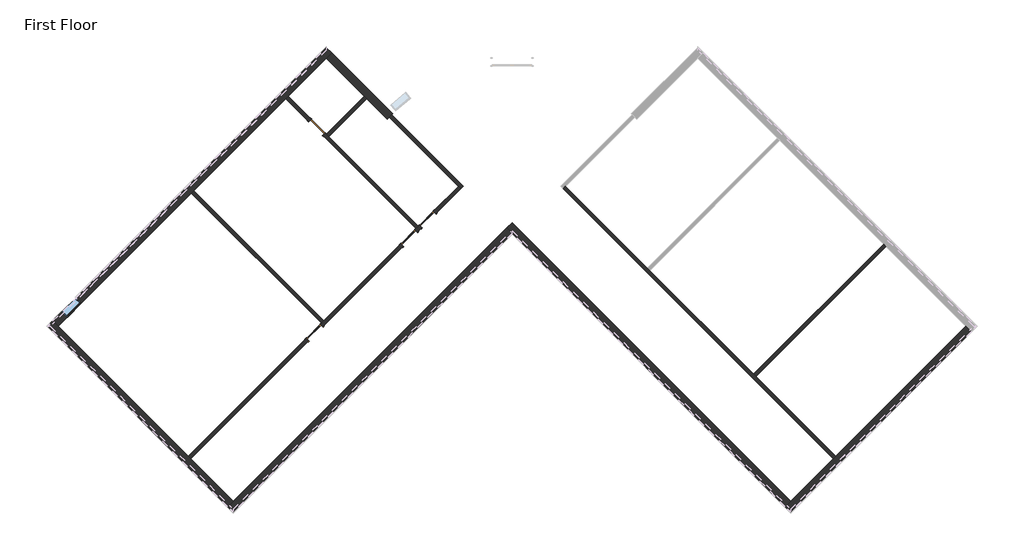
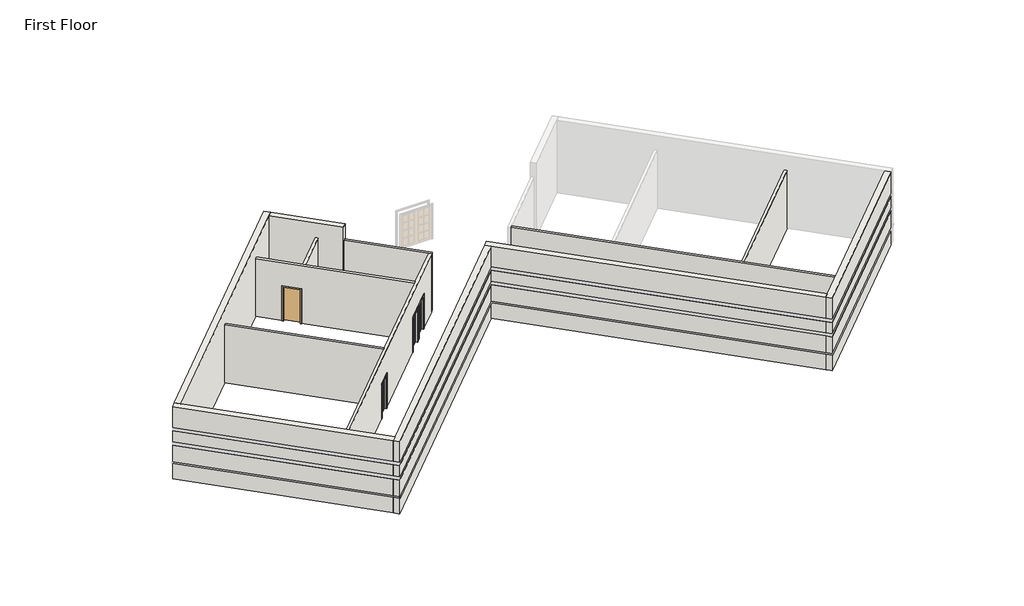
# One storey, part 1 of 2: 13 walls, 4 doors, 1 window.
"""IFC4 building model written with IfcOpenShell, lengths in millimetres."""

from ifc_helpers import new_model, si_unit, frame, origin, origin_with_axes, place, context, project, spatial, polyline, circle_curve, outline, extrude, faceted_brep, transform, mapped, element, save
from ifc_brep_helpers import plane_surface, cylinder_surface, revolved_surface, advanced_brep
from components import door_f9494b7c, door_b81abb0e, door_5f5b55da, window_15c49d37

model = new_model("IFC4")

# Units and contexts
model_context = context("Model", 3, world=origin())
ifc_project = project(units=[si_unit("LENGTHUNIT", "METRE", prefix="MILLI")], contexts=[model_context])

# Site, building, storey
site = spatial("IfcSite", under=ifc_project)
building = spatial("IfcBuilding", under=site)
storey = spatial("IfcBuildingStorey", under=building, Name="First Floor", Elevation=0.0)

# Doors
placement = place(None, origin())
door_shape = door_f9494b7c(model_context)
element("IfcDoor", 1, ObjectType="Single-Flush : 36\" x 84\"", at=placement, inside=storey, context=model_context, shape_type="MappedRepresentation", body=[
    mapped(door_shape, transform((-11920.1265343, 7875.9588464, 0.0), x_axis=(0.7071067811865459, -0.7071067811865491, 0.0), y_axis=(0.7071067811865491, 0.7071067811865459, 0.0), z_axis=(0.0, 0.0, 1.0))),
])
door_2_shape = door_b81abb0e(model_context)
element("IfcDoor", 2, ObjectType="Single-Glass 1 : 36\" x 84\"", at=placement, inside=storey, context=model_context, shape_type="MappedRepresentation", body=[
    mapped(door_2_shape, transform((-12027.7718255, -1647.4849877, 0.0), x_axis=(0.7071067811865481, 0.7071067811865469, 0.0), y_axis=(-0.7071067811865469, 0.7071067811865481, 0.0), z_axis=(0.0, 0.0, 1.0))),
])
element("IfcDoor", 3, ObjectType="Single-Glass 1 : 36\" x 84\"", at=placement, inside=storey, context=model_context, shape_type="MappedRepresentation", body=[
    mapped(door_2_shape, transform((-7643.2795567, 2737.0072811, 0.0), x_axis=(0.7071067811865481, 0.7071067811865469, 0.0), y_axis=(-0.7071067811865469, 0.7071067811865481, 0.0), z_axis=(0.0, 0.0, 1.0))),
])
door_3_shape = door_5f5b55da(model_context)
element("IfcDoor", 4, ObjectType="Single-Glass 1 : 36\" x 84\"", at=placement, inside=storey, context=model_context, shape_type="MappedRepresentation", body=[
    mapped(door_3_shape, transform((-6781.1749691, 3599.1118687, 0.0), x_axis=(-0.7071067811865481, -0.7071067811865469, 0.0), y_axis=(0.7071067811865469, -0.7071067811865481, 0.0), z_axis=(0.0, 0.0, 1.0))),
])

# Walls
element("IfcWall", 5, ObjectType="Exterior - Split Face and CMU on Mtl. Stud", at=placement, inside=storey, context=model_context, shape_type="Brep", body=[
    faceted_brep([(18186.1821115, -1357.9895101, 4572.0), (10063.54045, -9480.6311716, 4572.0), (9814.3383427, -9729.833279, 4572.0), (10063.54045, -9979.0353863, 4572.0), (18435.3842189, -1607.1916175, 4572.0), (18186.1821115, -1357.9895101, 0.0), (12149.2049342, -7394.9666875, 0.0), (12039.1967967, -7504.974825, 0.0), (10063.54045, -9480.6311716, 0.0), (9814.3383427, -9729.833279, 0.0), (9814.3383427, -9729.833279, 1016.0), (9879.4451996, -9664.7264221, 1016.0), (9879.4451996, -9664.7264221, 1085.85), (9814.3383427, -9729.833279, 1085.85), (9814.3383427, -9729.833279, 2133.6), (9879.4451996, -9664.7264221, 2133.6), (9879.4451996, -9664.7264221, 2336.8), (9814.3383427, -9729.833279, 2336.8), (9814.3383427, -9729.833279, 3048.0), (9879.4451996, -9664.7264221, 3048.0), (9879.4451996, -9664.7264221, 3251.2), (9814.3383427, -9729.833279, 3251.2), (10063.54045, -9979.0353863, 3251.2), (18435.3842189, -1607.1916175, 3251.2), (10063.54045, -9979.0353863, 0.0), (18435.3842189, -1607.1916175, 0.0), (18435.3842189, -1607.1916175, 1016.0), (10063.54045, -9979.0353863, 1016.0), (10063.54045, -9979.0353863, 1085.85), (18435.3842189, -1607.1916175, 1085.85), (18435.3842189, -1607.1916175, 2133.6), (10063.54045, -9979.0353863, 2133.6), (10063.54045, -9979.0353863, 2336.8), (18435.3842189, -1607.1916175, 2336.8), (18435.3842189, -1607.1916175, 3048.0), (10063.54045, -9979.0353863, 3048.0), (18370.277362, -1542.0847606, 0.0), (9998.4335932, -9913.9285294, 0.0), (18370.277362, -1542.0847606, 3251.2), (18370.277362, -1542.0847606, 3048.0), (18370.277362, -1542.0847606, 2336.8), (18370.277362, -1542.0847606, 2133.6), (18370.277362, -1542.0847606, 1085.85), (18370.277362, -1542.0847606, 1016.0), (10063.54045, -9848.8216726, 1085.85), (10063.54045, -9848.8216726, 1016.0), (10063.54045, -9848.8216726, 2133.6), (10063.54045, -9848.8216726, 2336.8), (10063.54045, -9848.8216726, 3048.0), (10063.54045, -9848.8216726, 3251.2)], [[[0, 1, 2, 3, 4]], [[5, 6, 7, 8, 9, 10, 11, 12, 13, 14, 15, 16, 17, 18, 19, 20, 21, 2, 1, 0]], [[4, 3, 22, 23]], [[24, 25, 26, 27]], [[28, 29, 30, 31]], [[32, 33, 34, 35]], [[9, 8, 7, 6, 5, 36, 37]], [[5, 0, 4, 23, 38, 39, 34, 33, 40, 41, 30, 29, 42, 43, 26, 25, 36]], [[25, 24, 37, 36]], [[3, 2, 21, 22]], [[9, 37, 24, 27, 10]], [[13, 28, 31, 14]], [[17, 32, 35, 18]], [[12, 44, 42, 29, 28, 13]], [[43, 45, 11, 10, 27, 26]], [[44, 45, 43, 42]], [[45, 44, 12, 11]], [[41, 46, 15, 14, 31, 30]], [[16, 47, 40, 33, 32, 17]], [[47, 46, 41, 40]], [[46, 47, 16, 15]], [[39, 48, 19, 18, 35, 34]], [[20, 49, 38, 23, 22, 21]], [[49, 48, 39, 38]], [[48, 49, 20, 19]]]),
])
element("IfcWall", 6, ObjectType="Exterior - Split Face and CMU on Mtl. Stud", at=placement, inside=storey, context=model_context, shape_type="Brep", body=[
    faceted_brep([(10063.54045, -9480.6311716, 0.0), (-2868.0283643, 3450.9376427, 0.0), (-2868.0283643, 3450.9376427, 4572.0), (10063.54045, -9480.6311716, 4572.0), (9814.3383427, -9729.833279, 4572.0), (-2868.0283643, 2952.533428, 4572.0), (-3117.2304717, 3201.7355354, 4572.0), (-3117.2304717, 3201.7355354, 0.0), (-2868.0283643, 2952.533428, 0.0), (9814.3383427, -9729.833279, 0.0), (9814.3383427, -9729.833279, 1016.0), (-2868.0283643, 2952.533428, 1016.0), (-2933.1352212, 3017.6402849, 1016.0), (-2933.1352212, 3017.6402849, 1085.85), (-2868.0283643, 2952.533428, 1085.85), (9814.3383427, -9729.833279, 1085.85), (9814.3383427, -9729.833279, 2133.6), (-2868.0283643, 2952.533428, 2133.6), (-2933.1352212, 3017.6402849, 2133.6), (-2933.1352212, 3017.6402849, 2336.8), (-2868.0283643, 2952.533428, 2336.8), (9814.3383427, -9729.833279, 2336.8), (9814.3383427, -9729.833279, 3048.0), (-2868.0283643, 2952.533428, 3048.0), (-2933.1352212, 3017.6402849, 3048.0), (-2933.1352212, 3017.6402849, 3251.2), (-2868.0283643, 2952.533428, 3251.2), (9814.3383427, -9729.833279, 3251.2), (-3052.1236148, 3266.8423923, 0.0), (9879.4451996, -9664.7264221, 3251.2), (9879.4451996, -9664.7264221, 3048.0), (9879.4451996, -9664.7264221, 2336.8), (9879.4451996, -9664.7264221, 2133.6), (9879.4451996, -9664.7264221, 1085.85), (9879.4451996, -9664.7264221, 1016.0), (9879.4451996, -9664.7264221, 0.0), (-2868.0283643, 3082.7471418, 1085.85), (-2868.0283643, 3082.7471418, 1016.0), (-2868.0283643, 3082.7471418, 2133.6), (-2868.0283643, 3082.7471418, 2336.8), (-2868.0283643, 3082.7471418, 3048.0), (-2868.0283643, 3082.7471418, 3251.2)], [[[0, 1, 2, 3]], [[4, 5, 6, 7, 8, 9, 10, 11, 12, 13, 14, 15, 16, 17, 18, 19, 20, 21, 22, 23, 24, 25, 26, 27]], [[3, 2, 6, 5, 4]], [[2, 1, 28, 7, 6]], [[0, 3, 4, 27, 29, 30, 22, 21, 31, 32, 16, 15, 33, 34, 10, 9, 35]], [[1, 0, 35, 28]], [[35, 9, 8, 7, 28]], [[13, 36, 33, 15, 14]], [[34, 37, 12, 11, 10]], [[36, 37, 34, 33]], [[37, 36, 13, 12]], [[32, 38, 18, 17, 16]], [[19, 39, 31, 21, 20]], [[39, 38, 32, 31]], [[38, 39, 19, 18]], [[30, 40, 24, 23, 22]], [[25, 41, 29, 27, 26]], [[41, 40, 30, 29]], [[40, 41, 25, 24]]]),
])
element("IfcWall", 7, ObjectType="Exterior - Split Face and CMU on Mtl. Stud", at=placement, inside=storey, context=model_context, shape_type="Brep", body=[
    faceted_brep([(-3117.2304717, 3201.7355354, 4572.0), (-15799.5971786, -9480.6311716, 4572.0), (-16048.799286, -9729.833279, 4572.0), (-15799.5971786, -9979.0353863, 4572.0), (-2868.0283643, 2952.533428, 4572.0), (-3117.2304717, 3201.7355354, 0.0), (-15799.5971786, -9480.6311716, 0.0), (-16048.799286, -9729.833279, 0.0), (-16048.799286, -9729.833279, 1016.0), (-15983.6924291, -9664.7264221, 1016.0), (-15983.6924291, -9664.7264221, 1085.85), (-16048.799286, -9729.833279, 1085.85), (-16048.799286, -9729.833279, 2133.6), (-15983.6924291, -9664.7264221, 2133.6), (-15983.6924291, -9664.7264221, 2336.8), (-16048.799286, -9729.833279, 2336.8), (-16048.799286, -9729.833279, 3048.0), (-15983.6924291, -9664.7264221, 3048.0), (-15983.6924291, -9664.7264221, 3251.2), (-16048.799286, -9729.833279, 3251.2), (-15799.5971786, -9979.0353863, 3251.2), (-2868.0283643, 2952.533428, 3251.2), (-15799.5971786, -9979.0353863, 0.0), (-2868.0283643, 2952.533428, 0.0), (-2868.0283643, 2952.533428, 1016.0), (-15799.5971786, -9979.0353863, 1016.0), (-15799.5971786, -9979.0353863, 1085.85), (-2868.0283643, 2952.533428, 1085.85), (-2868.0283643, 2952.533428, 2133.6), (-15799.5971786, -9979.0353863, 2133.6), (-15799.5971786, -9979.0353863, 2336.8), (-2868.0283643, 2952.533428, 2336.8), (-2868.0283643, 2952.533428, 3048.0), (-15799.5971786, -9979.0353863, 3048.0), (-2933.1352212, 3017.6402849, 0.0), (-15864.7040355, -9913.9285294, 0.0), (-2933.1352212, 3017.6402849, 3251.2), (-2933.1352212, 3017.6402849, 3048.0), (-2933.1352212, 3017.6402849, 2336.8), (-2933.1352212, 3017.6402849, 2133.6), (-2933.1352212, 3017.6402849, 1085.85), (-2933.1352212, 3017.6402849, 1016.0), (-15799.5971786, -9848.8216726, 1085.85), (-15799.5971786, -9848.8216726, 1016.0), (-15799.5971786, -9848.8216726, 2133.6), (-15799.5971786, -9848.8216726, 2336.8), (-15799.5971786, -9848.8216726, 3048.0), (-15799.5971786, -9848.8216726, 3251.2)], [[[0, 1, 2, 3, 4]], [[5, 6, 7, 8, 9, 10, 11, 12, 13, 14, 15, 16, 17, 18, 19, 2, 1, 0]], [[4, 3, 20, 21]], [[22, 23, 24, 25]], [[26, 27, 28, 29]], [[30, 31, 32, 33]], [[7, 6, 5, 34, 35]], [[5, 0, 4, 21, 36, 37, 32, 31, 38, 39, 28, 27, 40, 41, 24, 23, 34]], [[23, 22, 35, 34]], [[3, 2, 19, 20]], [[7, 35, 22, 25, 8]], [[11, 26, 29, 12]], [[15, 30, 33, 16]], [[10, 42, 40, 27, 26, 11]], [[41, 43, 9, 8, 25, 24]], [[42, 43, 41, 40]], [[43, 42, 10, 9]], [[39, 44, 13, 12, 29, 28]], [[14, 45, 38, 31, 30, 15]], [[45, 44, 39, 38]], [[44, 45, 14, 13]], [[37, 46, 17, 16, 33, 32]], [[18, 47, 36, 21, 20, 19]], [[47, 46, 37, 36]], [[46, 47, 18, 17]]]),
])
element("IfcWall", 8, ObjectType="Exterior - Split Face and CMU on Mtl. Stud", at=placement, inside=storey, context=model_context, shape_type="Brep", body=[
    faceted_brep([(-15799.5971786, -9480.6311716, 4572.0), (-23922.2388402, -1357.9895101, 4572.0), (-24171.4409475, -1108.7874027, 4572.0), (-24420.6430549, -1357.9895101, 4572.0), (-16048.799286, -9729.833279, 4572.0), (-15799.5971786, -9480.6311716, 0.0), (-17775.2535253, -7504.974825, 0.0), (-17885.2616628, -7394.9666875, 0.0), (-23922.2388402, -1357.9895101, 0.0), (-24171.4409475, -1108.7874027, 0.0), (-24171.4409475, -1108.7874027, 1016.0), (-24106.3340906, -1173.8942596, 1016.0), (-24106.3340906, -1173.8942596, 1085.85), (-24171.4409475, -1108.7874027, 1085.85), (-24171.4409475, -1108.7874027, 2133.6), (-24106.3340906, -1173.8942596, 2133.6), (-24106.3340906, -1173.8942596, 2336.8), (-24171.4409475, -1108.7874027, 2336.8), (-24171.4409475, -1108.7874027, 3048.0), (-24106.3340906, -1173.8942596, 3048.0), (-24106.3340906, -1173.8942596, 3251.2), (-24171.4409475, -1108.7874027, 3251.2), (-24420.6430549, -1357.9895101, 3251.2), (-16048.799286, -9729.833279, 3251.2), (-24420.6430549, -1357.9895101, 0.0), (-16048.799286, -9729.833279, 0.0), (-16048.799286, -9729.833279, 1016.0), (-24420.6430549, -1357.9895101, 1016.0), (-24420.6430549, -1357.9895101, 1085.85), (-16048.799286, -9729.833279, 1085.85), (-16048.799286, -9729.833279, 2133.6), (-24420.6430549, -1357.9895101, 2133.6), (-24420.6430549, -1357.9895101, 2336.8), (-16048.799286, -9729.833279, 2336.8), (-16048.799286, -9729.833279, 3048.0), (-24420.6430549, -1357.9895101, 3048.0), (-15983.6924291, -9664.7264221, 0.0), (-24355.536198, -1292.8826532, 0.0), (-15983.6924291, -9664.7264221, 3251.2), (-15983.6924291, -9664.7264221, 3048.0), (-15983.6924291, -9664.7264221, 2336.8), (-15983.6924291, -9664.7264221, 2133.6), (-15983.6924291, -9664.7264221, 1085.85), (-15983.6924291, -9664.7264221, 1016.0), (-24290.4293411, -1357.9895101, 1085.85), (-24290.4293411, -1357.9895101, 1016.0), (-24290.4293411, -1357.9895101, 2133.6), (-24290.4293411, -1357.9895101, 2336.8), (-24290.4293411, -1357.9895101, 3048.0), (-24290.4293411, -1357.9895101, 3251.2)], [[[0, 1, 2, 3, 4]], [[5, 6, 7, 8, 9, 10, 11, 12, 13, 14, 15, 16, 17, 18, 19, 20, 21, 2, 1, 0]], [[4, 3, 22, 23]], [[24, 25, 26, 27]], [[28, 29, 30, 31]], [[32, 33, 34, 35]], [[9, 8, 7, 6, 5, 36, 37]], [[5, 0, 4, 23, 38, 39, 34, 33, 40, 41, 30, 29, 42, 43, 26, 25, 36]], [[25, 24, 37, 36]], [[3, 2, 21, 22]], [[9, 37, 24, 27, 10]], [[13, 28, 31, 14]], [[17, 32, 35, 18]], [[12, 44, 42, 29, 28, 13]], [[43, 45, 11, 10, 27, 26]], [[44, 45, 43, 42]], [[45, 44, 12, 11]], [[41, 46, 15, 14, 31, 30]], [[16, 47, 40, 33, 32, 17]], [[47, 46, 41, 40]], [[46, 47, 16, 15]], [[39, 48, 19, 18, 35, 34]], [[20, 49, 38, 23, 22, 21]], [[49, 48, 39, 38]], [[48, 49, 20, 19]]]),
])
element("IfcWall", 9, ObjectType="Exterior - Split Face and CMU on Mtl. Stud", at=placement, inside=storey, context=model_context, shape_type="Brep", body=[
    faceted_brep([(-23922.2388402, -1357.9895101, 4572.0), (-11489.0742405, 11075.1750895, 4572.0), (-11239.8721332, 11324.3771969, 4572.0), (-11489.0742405, 11573.5793042, 4572.0), (-24171.4409475, -1108.7874027, 4572.0), (-23922.2388402, -1357.9895101, 0.0), (-17743.7048466, 4820.5444835, 0.0), (-17633.6967091, 4930.552621, 0.0), (-13359.2125777, 9205.0367523, 0.0), (-13249.2044403, 9315.0448898, 0.0), (-11489.0742405, 11075.1750895, 0.0), (-11239.8721332, 11324.3771969, 0.0), (-11239.8721332, 11324.3771969, 1016.0), (-11304.9789901, 11259.27034, 1016.0), (-11304.9789901, 11259.27034, 1085.85), (-11239.8721332, 11324.3771969, 1085.85), (-11239.8721332, 11324.3771969, 2133.6), (-11304.9789901, 11259.27034, 2133.6), (-11304.9789901, 11259.27034, 2336.8), (-11239.8721332, 11324.3771969, 2336.8), (-11239.8721332, 11324.3771969, 3048.0), (-11304.9789901, 11259.27034, 3048.0), (-11304.9789901, 11259.27034, 3251.2), (-11239.8721332, 11324.3771969, 3251.2), (-23508.0245266, -943.7751965, 914.4), (-23508.0245266, -943.7751965, 2133.6), (-22861.4460859, -297.1967558, 2133.6), (-22861.4460859, -297.1967558, 914.4), (-11489.0742405, 11573.5793042, 3251.2), (-24171.4409475, -1108.7874027, 3251.2), (-11489.0742405, 11573.5793042, 0.0), (-24171.4409475, -1108.7874027, 0.0), (-24171.4409475, -1108.7874027, 1016.0), (-23757.2266339, -694.5730891, 1016.0), (-23757.2266339, -694.5730891, 914.4), (-23110.6481932, -47.9946484, 914.4), (-23110.6481932, -47.9946484, 1016.0), (-11489.0742405, 11573.5793042, 1016.0), (-23110.6481932, -47.9946484, 2133.6), (-23757.2266339, -694.5730891, 2133.6), (-23757.2266339, -694.5730891, 2336.8), (-24171.4409475, -1108.7874027, 2336.8), (-24171.4409475, -1108.7874027, 3048.0), (-11489.0742405, 11573.5793042, 3048.0), (-11489.0742405, 11573.5793042, 2336.8), (-23110.6481932, -47.9946484, 2336.8), (-23757.2266339, -694.5730891, 1085.85), (-24171.4409475, -1108.7874027, 1085.85), (-24171.4409475, -1108.7874027, 2133.6), (-23110.6481932, -47.9946484, 1085.85), (-11489.0742405, 11573.5793042, 2133.6), (-11489.0742405, 11573.5793042, 1085.85), (-24106.3340906, -1173.8942596, 0.0), (-11423.9673837, 11508.4724474, 0.0), (-24106.3340906, -1173.8942596, 3251.2), (-24106.3340906, -1173.8942596, 3048.0), (-24106.3340906, -1173.8942596, 2336.8), (-24106.3340906, -1173.8942596, 2133.6), (-24106.3340906, -1173.8942596, 1085.85), (-24106.3340906, -1173.8942596, 1016.0), (-23692.119777, -759.679946, 1016.0), (-23692.119777, -759.679946, 1085.85), (-23692.119777, -759.679946, 2133.6), (-23045.5413363, -113.1015053, 2133.6), (-23045.5413363, -113.1015053, 1085.85), (-23045.5413363, -113.1015053, 1016.0), (-11489.0742405, 11443.3655905, 1085.85), (-11489.0742405, 11443.3655905, 1016.0), (-23692.119777, -759.679946, 2133.6), (-23692.119777, -759.679946, 2336.8), (-23045.5413363, -113.1015053, 2133.6), (-23045.5413363, -113.1015053, 2336.8), (-11489.0742405, 11443.3655905, 2133.6), (-11489.0742405, 11443.3655905, 2336.8), (-11489.0742405, 11443.3655905, 3048.0), (-11489.0742405, 11443.3655905, 3251.2)], [[[0, 1, 2, 3, 4]], [[5, 6, 7, 8, 9, 10, 11, 12, 13, 14, 15, 16, 17, 18, 19, 20, 21, 22, 23, 2, 1, 0], [24, 25, 26, 27]], [[4, 3, 28, 29]], [[30, 31, 32, 33, 34, 35, 36, 37]], [[38, 39, 40, 41, 42, 43, 44, 45]], [[39, 46, 47, 48]], [[49, 38, 50, 51]], [[11, 10, 9, 8, 7, 6, 5, 52, 53]], [[5, 0, 4, 29, 54, 55, 42, 41, 56, 57, 48, 47, 58, 59, 32, 31, 52]], [[31, 30, 53, 52]], [[3, 2, 23, 28]], [[11, 53, 30, 37, 12]], [[15, 51, 50, 16]], [[19, 44, 43, 20]], [[25, 24, 34, 33, 60, 61, 46, 39, 62]], [[35, 34, 24, 27]], [[27, 26, 63, 38, 49, 64, 65, 36, 35]], [[39, 38, 63, 26, 25, 62]], [[61, 58, 47, 46]], [[59, 60, 33, 32]], [[58, 61, 60, 59]], [[66, 64, 49, 51, 15, 14]], [[65, 67, 13, 12, 37, 36]], [[64, 66, 67, 65]], [[67, 66, 14, 13]], [[68, 39, 48, 57]], [[40, 69, 56, 41]], [[39, 68, 69, 40]], [[69, 68, 57, 56]], [[70, 38, 45, 71]], [[38, 70, 72, 17, 16, 50]], [[70, 71, 73, 72]], [[71, 45, 44, 19, 18, 73]], [[72, 73, 18, 17]], [[55, 74, 21, 20, 43, 42]], [[22, 75, 54, 29, 28, 23]], [[75, 74, 55, 54]], [[74, 75, 22, 21]]]),
])
element("IfcWall", 10, ObjectType="Exterior - Split Face and CMU on Mtl. Stud", at=placement, inside=storey, context=model_context, shape_type="AdvancedBrep", body=[
    advanced_brep(
    [(-11489.0742405, 11075.1750895, 0.0), (-9728.9440408, 9315.0448898, 0.0), (-9618.9359033, 9205.0367523, 0.0), (-8658.0122729, 8244.1131219, 0.0), (-8658.0122729, 8244.1131219, 4572.0), (-11489.0742405, 11075.1750895, 4572.0), (-11239.8721332, 11324.3771969, 4572.0), (-8662.486224, 8746.9912878, 4572.0), (-8413.2817722, 8497.7868359, 4572.0), (-8413.2817722, 8497.7868359, 0.0), (-8662.486224, 8746.9912878, 0.0), (-11239.8721332, 11324.3771969, 0.0), (-11239.8721332, 11324.3771969, 1016.0), (-8662.486224, 8746.9912878, 1016.0), (-8597.3787742, 8681.8838379, 1016.0), (-8597.3787742, 8681.8838379, 1085.85), (-8662.486224, 8746.9912878, 1085.85), (-11239.8721332, 11324.3771969, 1085.85), (-11239.8721332, 11324.3771969, 2133.6), (-8662.486224, 8746.9912878, 2133.6), (-8597.3787742, 8681.8838379, 2133.6), (-8597.3787742, 8681.8838379, 2336.8), (-8662.486224, 8746.9912878, 2336.8), (-11239.8721332, 11324.3771969, 2336.8), (-11239.8721332, 11324.3771969, 3048.0), (-8662.486224, 8746.9912878, 3048.0), (-8597.3787742, 8681.8838379, 3048.0), (-8597.3787742, 8681.8838379, 3251.2), (-8662.486224, 8746.9912878, 3251.2), (-11239.8721332, 11324.3771969, 3251.2), (-8557.713594, 8350.8358404, 0.0), (-8478.2967797, 8432.5881297, 0.0), (-8449.0111375, 8462.1452813, 0.0), (-11304.9789901, 11259.27034, 3251.2), (-11304.9789901, 11259.27034, 3048.0), (-11304.9789901, 11259.27034, 2336.8), (-11304.9789901, 11259.27034, 2133.6), (-11304.9789901, 11259.27034, 1085.85), (-11304.9789901, 11259.27034, 1016.0), (-11304.9789901, 11259.27034, 0.0), (-8662.3967205, 8616.6880705, 1085.85), (-8662.3967205, 8616.6880705, 1016.0), (-8662.3967205, 8616.6880705, 2336.8), (-8662.3967205, 8616.6880705, 2133.6), (-8662.3967205, 8616.6880705, 3251.2), (-8662.3967205, 8616.6880705, 3048.0)],
    [
        (0, 1),
        (1, 2),
        (2, 3),
        (3, 4),
        (4, 5),
        (5, 0),
        (6, 7),
        (7, 8),
        (8, 9),
        (9, 10),
        (10, 11),
        (11, 12),
        (12, 13),
        (13, 14),
        (14, 15),
        (15, 16),
        (16, 17),
        (17, 18),
        (18, 19),
        (19, 20),
        (20, 21),
        (21, 22),
        (22, 23),
        (23, 24),
        (24, 25),
        (25, 26),
        (26, 27),
        (27, 28),
        (28, 29),
        (29, 6),
        (4, 8, circle_curve(frame((-2868.0283643, 2903.1420194, 4572.0), z_axis=(0.0, 0.0, -1.0), x_axis=(1.0, 0.0, 0.0)), 7877.175)),
        (6, 5),
        (3, 30, circle_curve(frame((-2868.0283643, 2903.1420194, 0.0), z_axis=(0.0, 0.0, -1.0), x_axis=(1.0, 0.0, 0.0)), 7877.175)),
        (30, 31, circle_curve(frame((-2868.0283643, 2903.1420194, 0.0), z_axis=(0.0, 0.0, -1.0), x_axis=(1.0, 0.0, 0.0)), 7877.175)),
        (31, 32, circle_curve(frame((-2868.0283643, 2903.1420194, 0.0), z_axis=(0.0, 0.0, -1.0), x_axis=(1.0, 0.0, 0.0)), 7877.175)),
        (32, 9, circle_curve(frame((-2868.0283643, 2903.1420194, 0.0), z_axis=(0.0, 0.0, -1.0), x_axis=(1.0, 0.0, 0.0)), 7877.175)),
        (29, 33),
        (33, 34),
        (34, 24),
        (23, 35),
        (35, 36),
        (36, 18),
        (17, 37),
        (37, 38),
        (38, 12),
        (11, 39),
        (39, 0),
        (39, 31),
        (40, 41),
        (41, 38),
        (37, 40),
        (15, 40, circle_curve(frame((-2868.0283643, 2903.1420194, 1085.85), z_axis=(0.0, 0.0, 1.0), x_axis=(-0.7040995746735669, 0.7101012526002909, 0.0)), 8137.525)),
        (41, 14, circle_curve(frame((-2868.0283643, 2903.1420194, 1016.0), z_axis=(0.0, 0.0, -1.0), x_axis=(-0.7040995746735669, 0.7101012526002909, 0.0)), 8137.525)),
        (42, 43),
        (43, 36),
        (35, 42),
        (43, 20, circle_curve(frame((-2868.0283643, 2903.1420194, 2133.6), z_axis=(0.0, 0.0, -1.0), x_axis=(-0.7120553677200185, 0.70212331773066, 0.0)), 8137.525)),
        (42, 21, circle_curve(frame((-2868.0283643, 2903.1420194, 2336.8), z_axis=(0.0, 0.0, -1.0), x_axis=(-0.7120553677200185, 0.70212331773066, 0.0)), 8137.525)),
        (44, 45),
        (45, 34),
        (33, 44),
        (45, 26, circle_curve(frame((-2868.0283643, 2903.1420194, 3048.0), z_axis=(0.0, 0.0, -1.0), x_axis=(-0.7120553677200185, 0.70212331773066, 0.0)), 8137.525)),
        (44, 27, circle_curve(frame((-2868.0283643, 2903.1420194, 3251.2), z_axis=(0.0, 0.0, -1.0), x_axis=(-0.7120553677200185, 0.70212331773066, 0.0)), 8137.525)),
    ],
    [
        plane_surface(frame((-11738.2763479, 11324.3771969, 0.0), z_axis=(-0.7071067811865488, -0.7071067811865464, 0.0), x_axis=(0.7071067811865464, -0.7071067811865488, 0.0))),
        plane_surface(frame((-11489.0742405, 11573.5793042, 0.0), z_axis=(0.7071067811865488, 0.7071067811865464, 0.0), x_axis=(-0.7071067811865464, 0.7071067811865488, 0.0))),
        plane_surface(frame((-8786.2632499, 8372.3640989, 4572.0), z_axis=(0.0, 0.0, 1.0), x_axis=(0.7071067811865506, 0.7071067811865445, 0.0))),
        revolved_surface(polyline([(5009.146635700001, 2903.1420194, 0.0), (5009.146635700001, 2903.1420194, 4572.0)]), (-2868.0283643, 2903.1420194, 0.0), (0.0, 0.0, -1.0)),
        plane_surface(frame((-24171.4409475, -1607.1916175, 0.0), z_axis=(-0.7071067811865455, 0.7071067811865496, 0.0), x_axis=(0.7071067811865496, 0.7071067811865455, 0.0))),
        plane_surface(frame((-11613.6752942, 11199.7761432, 0.0), z_axis=(0.0, 0.0, -1.0000000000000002), x_axis=(0.7071067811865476, 0.7071067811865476, 0.0))),
        plane_surface(frame((0.0, 0.0, 0.0), z_axis=(0.0, 0.0, -1.0), x_axis=(1.0, 0.0, 0.0))),
        plane_surface(frame((-11489.0742405, 11443.3655905, 1016.0), z_axis=(0.7071067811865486, 0.7071067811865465, 0.0), x_axis=(0.7071067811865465, -0.7071067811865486, 0.0))),
        plane_surface(frame((-2868.0283643, 2903.1420194, 1085.85), z_axis=(0.0, 0.0, -1.0), x_axis=(-0.7040995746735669, 0.7101012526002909, 0.0))),
        plane_surface(frame((-2868.0283643, 2903.1420194, 1016.0), z_axis=(0.0, 0.0, 1.0), x_axis=(-0.7040995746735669, 0.7101012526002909, 0.0))),
        cylinder_surface(frame((-2868.0283643, 2903.1420194, 1016.0), z_axis=(0.0, 0.0, -1.0), x_axis=(-0.7040995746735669, 0.7101012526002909, 0.0)), 8137.525),
        plane_surface(frame((-11489.0742405, 11443.3655905, 2133.6), z_axis=(0.7071067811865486, 0.7071067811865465, 0.0), x_axis=(0.7071067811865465, -0.7071067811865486, 0.0))),
        plane_surface(frame((-2868.0283643, 2903.1420194, 2133.6), z_axis=(0.0, 0.0, 1.0), x_axis=(-0.7120553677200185, 0.70212331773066, 0.0))),
        cylinder_surface(frame((-2868.0283643, 2903.1420194, 2133.6), z_axis=(0.0, 0.0, -1.0), x_axis=(-0.7120553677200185, 0.70212331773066, 0.0)), 8137.525),
        plane_surface(frame((-2868.0283643, 2903.1420194, 2336.8), z_axis=(0.0, 0.0, -1.0), x_axis=(-0.7120553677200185, 0.70212331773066, 0.0))),
        plane_surface(frame((-11489.0742405, 11443.3655905, 3048.0), z_axis=(0.7071067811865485, 0.7071067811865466, 0.0), x_axis=(0.7071067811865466, -0.7071067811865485, 0.0))),
        plane_surface(frame((-2868.0283643, 2903.1420194, 3048.0), z_axis=(0.0, 0.0, 1.0), x_axis=(-0.7120553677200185, 0.70212331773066, 0.0))),
        cylinder_surface(frame((-2868.0283643, 2903.1420194, 3048.0), z_axis=(0.0, 0.0, -1.0), x_axis=(-0.7120553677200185, 0.70212331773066, 0.0)), 8137.525),
        plane_surface(frame((-2868.0283643, 2903.1420194, 3251.2), z_axis=(0.0, 0.0, -1.0), x_axis=(-0.7120553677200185, 0.70212331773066, 0.0))),
    ],
    [
        (0, [[1, 2, 3, 4, 5, 6]]),
        (1, [[7, 8, 9, 10, 11, 12, 13, 14, 15, 16, 17, 18, 19, 20, 21, 22, 23, 24, 25, 26, 27, 28, 29, 30]]),
        (2, [[-5, 31, -8, -7, 32]]),
        (3, [[-31, -4, 33, 34, 35, 36, -9]]),
        (4, [[-6, -32, -30, 37, 38, 39, -24, 40, 41, 42, -18, 43, 44, 45, -12, 46, 47]]),
        (5, [[-3, -2, -1, -47, 48, -34, -33]]),
        (6, [[-46, -11, -10, -36, -35, -48]]),
        (7, [[49, 50, -44, 51]]),
        (8, [[52, -51, -43, -17, -16]]),
        (9, [[-50, 53, -14, -13, -45]]),
        (10, [[-49, -52, -15, -53]]),
        (11, [[54, 55, -41, 56]]),
        (12, [[-55, 57, -20, -19, -42]]),
        (13, [[-54, 58, -21, -57]]),
        (14, [[-58, -56, -40, -23, -22]]),
        (15, [[59, 60, -38, 61]]),
        (16, [[-60, 62, -26, -25, -39]]),
        (17, [[-59, 63, -27, -62]]),
        (18, [[-63, -61, -37, -29, -28]]),
    ],
),
])
element("IfcWall", 11, ObjectType="Interior - 6 1/8\" Partition (2-hr)", at=placement, inside=storey, context=model_context, shape_type="Brep", body=[
    faceted_brep([(-7374.9944051, 3115.3005702, 0.0), (-7322.2354004, 3168.0595749, 0.0), (-7212.2272629, 3278.0677124, 0.0), (-7159.4682582, 3330.8267171, 0.0), (-7049.4601207, 3220.8185796, 0.0), (-7264.9862676, 3005.2924327, 0.0), (-12296.0569771, -2025.7782768, 0.0), (-17775.2535253, -7504.974825, 0.0), (-17885.2616628, -7394.9666875, 0.0), (-12406.0651146, -1915.7701393, 0.0), (-7911.5647083, 2358.713992, 0.0), (-11649.4785364, -1379.1998361, 0.0), (-11759.4866739, -1269.1916986, 0.0), (-11706.7276692, -1216.4326939, 0.0), (-11596.7195317, -1106.4245564, 0.0), (-8021.5728458, 2468.7221295, 0.0), (-6512.8898174, 3977.4051578, 0.0), (-5348.5885532, 5141.7064221, 0.0), (-5238.5804157, 5031.6982846, 0.0), (-6402.88168, 3867.3970204, 0.0), (-17775.2535253, -7504.974825, 3657.6), (-5238.5804157, 5031.6982846, 3657.6), (-5348.5885532, 5141.7064221, 3657.6), (-7212.2272629, 3278.0677124, 3657.6), (-7322.2354004, 3168.0595749, 3657.6), (-11596.7195317, -1106.4245564, 3657.6), (-11706.7276692, -1216.4326939, 3657.6), (-17885.2616628, -7394.9666875, 3657.6), (-7049.4601207, 3220.8185796, 2133.6), (-6402.88168, 3867.3970204, 2133.6), (-12296.0569771, -2025.7782768, 2133.6), (-11649.4785364, -1379.1998361, 2133.6), (-7911.5647083, 2358.713992, 2133.6), (-7264.9862676, 3005.2924327, 2133.6), (-7159.4682582, 3330.8267171, 2133.6), (-7374.9944051, 3115.3005702, 2133.6), (-8021.5728458, 2468.7221295, 2133.6), (-11759.4866739, -1269.1916986, 2133.6), (-12406.0651146, -1915.7701393, 2133.6), (-6512.8898174, 3977.4051578, 2133.6)], [[[0, 1, 2, 3, 4, 5]], [[6, 7, 8, 9]], [[10, 11, 12, 13, 14, 15]], [[16, 17, 18, 19]], [[20, 21, 22, 23, 24, 25, 26, 27]], [[5, 4, 28, 29, 19, 18, 21, 20, 7, 6, 30, 31, 11, 10, 32, 33]], [[34, 3, 2, 1, 0, 35, 36, 15, 14, 13, 12, 37, 38, 9, 8, 27, 26, 25, 24, 23, 22, 17, 16, 39]], [[7, 20, 27, 8]], [[21, 18, 17, 22]], [[37, 12, 11, 31]], [[38, 37, 31, 30]], [[9, 38, 30, 6]], [[35, 0, 5, 33]], [[36, 35, 33, 32]], [[15, 36, 32, 10]], [[28, 4, 3, 34]], [[29, 28, 34, 39]], [[19, 29, 39, 16]]]),
])
element("IfcWall", 12, ObjectType="Interior - 6 1/8\" Partition (2-hr)", at=placement, inside=storey, context=model_context, shape_type="Brep", body=[
    faceted_brep([(-7322.2354004, 3168.0595749, 0.0), (-11651.8413827, 7497.6655573, 0.0), (-11541.8332452, 7607.6736948, 0.0), (-11489.0742405, 7554.9146901, 0.0), (-11379.066103, 7444.9065526, 0.0), (-7212.2272629, 3278.0677124, 0.0), (-12298.4198234, 8144.243998, 0.0), (-13359.2125777, 9205.0367523, 0.0), (-13249.2044403, 9315.0448898, 0.0), (-12188.411686, 8254.2521355, 0.0), (-7212.2272629, 3278.0677124, 3657.6), (-11379.066103, 7444.9065526, 3657.6), (-11489.0742405, 7554.9146901, 3657.6), (-13249.2044403, 9315.0448898, 3657.6), (-13359.2125777, 9205.0367523, 3657.6), (-7322.2354004, 3168.0595749, 3657.6), (-11541.8332452, 7607.6736948, 2133.6), (-12188.411686, 8254.2521355, 2133.6), (-11651.8413827, 7497.6655573, 2133.6), (-12298.4198234, 8144.243998, 2133.6)], [[[0, 1, 2, 3, 4, 5]], [[6, 7, 8, 9]], [[10, 11, 12, 13, 14, 15]], [[5, 4, 3, 2, 16, 17, 9, 8, 13, 12, 11, 10]], [[18, 1, 0, 15, 14, 7, 6, 19]], [[13, 8, 7, 14]], [[5, 10, 15, 0]], [[16, 2, 1, 18]], [[17, 16, 18, 19]], [[9, 17, 19, 6]]]),
])
element("IfcWall", 13, ObjectType="Interior - 6 1/8\" Partition (2-hr)", at=placement, inside=storey, context=model_context, shape_type="AdvancedBrep", body=[
    advanced_brep(
    [(-5128.5722782, 5141.7064221, 0.0), (-8449.0111375, 8462.1452813, 0.0), (-8449.0111375, 8462.1452813, 3657.6), (-5128.5722782, 5141.7064221, 3657.6), (-5238.5804157, 5031.6982846, 0.0), (-5238.5804157, 5031.6982846, 3657.6), (-5348.5885532, 5141.7064221, 3657.6), (-8557.7157352, 8350.8336041, 3657.6), (-8557.7157352, 8350.8336041, 0.0), (-5348.5885532, 5141.7064221, 0.0)],
    [
        (0, 1),
        (1, 2),
        (2, 3),
        (3, 0),
        (4, 5),
        (5, 6),
        (6, 7),
        (7, 8),
        (8, 9),
        (9, 4),
        (0, 4),
        (8, 1, circle_curve(frame((-2868.0283643, 2903.1420194, 0.0), z_axis=(0.0, 0.0, -1.0), x_axis=(1.0, 0.0, 0.0)), 7877.175)),
        (2, 7, circle_curve(frame((-2868.0283643, 2903.1420194, 3657.6), z_axis=(0.0, 0.0, 1.0), x_axis=(1.0, 0.0, 0.0)), 7877.175)),
        (5, 3),
    ],
    [
        plane_surface(frame((-5183.576347, 5196.7104908, 0.0), z_axis=(0.7071067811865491, 0.7071067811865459, 0.0), x_axis=(-0.7071067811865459, 0.7071067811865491, 0.0))),
        plane_surface(frame((-5293.5844845, 5086.7023533, 0.0), z_axis=(-0.7071067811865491, -0.7071067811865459, 0.0), x_axis=(0.7071067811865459, -0.7071067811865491, 0.0))),
        plane_surface(frame((-5183.576347, 5196.7104908, 0.0), z_axis=(0.0, 0.0, -1.0), x_axis=(-0.707106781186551, -0.7071067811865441, 0.0))),
        plane_surface(frame((-8573.2406241, 8586.374768, 3657.6), z_axis=(0.0, 0.0, 1.0), x_axis=(-0.707106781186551, -0.7071067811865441, 0.0))),
        plane_surface(frame((-17899.854579, -7629.5758786, 0.0), z_axis=(0.7071067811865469, -0.7071067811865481, 0.0), x_axis=(0.7071067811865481, 0.7071067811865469, 0.0))),
        cylinder_surface(frame((-2868.0283643, 2903.1420194, 0.0), z_axis=(0.0, 0.0, -1.0), x_axis=(1.0, 0.0, 0.0)), 7877.175),
    ],
    [
        (0, [[1, 2, 3, 4]]),
        (1, [[5, 6, 7, 8, 9, 10]]),
        (2, [[-1, 11, -10, -9, 12]]),
        (3, [[-3, 13, -7, -6, 14]]),
        (4, [[-4, -14, -5, -11]]),
        (5, [[-2, -12, -8, -13]]),
    ],
),
])
element("IfcWall", 14, ObjectType="Interior - 6 1/8\" Partition (2-hr)", at=placement, inside=storey, context=model_context, shape_type="SweptSolid", body=[
    extrude(outline(polyline([(-11489.0742405, 7554.9146901), (-9728.9440408, 9315.0448898), (-9618.9359033, 9205.0367523), (-11379.066103, 7444.9065526), (-11489.0742405, 7554.9146901)])), origin_with_axes(), (0.0, 0.0, 1.0), 3657.6),
])
element("IfcWall", 15, ObjectType="Interior - 6 1/8\" Partition (2-hr)", at=placement, inside=storey, context=model_context, shape_type="SweptSolid", body=[
    extrude(outline(polyline([(-17633.6967091, 4930.552621), (-11596.7195317, -1106.4245564), (-11706.7276692, -1216.4326939), (-17743.7048466, 4820.5444835), (-17633.6967091, 4930.552621)])), origin_with_axes(), (0.0, 0.0, 1.0), 3657.6),
])
element("IfcWall", 16, ObjectType="Interior - 6 1/8\" Partition (2-hr)", at=placement, inside=storey, context=model_context, shape_type="Brep", body=[
    faceted_brep([(-387.4681754, 5141.7064221, 0.0), (3415.9058564, 1338.3323903, 0.0), (3525.9139939, 1228.3242528, 0.0), (8339.3312748, -3585.0930281, 0.0), (8449.3394123, -3695.1011656, 0.0), (12149.2049342, -7394.9666875, 0.0), (12039.1967967, -7504.974825, 0.0), (-497.4763129, 5031.6982846, 0.0), (12149.2049342, -7394.9666875, 3657.6), (8449.3394123, -3695.1011656, 3657.6), (8339.3312748, -3585.0930281, 3657.6), (3525.9139939, 1228.3242528, 3657.6), (3415.9058564, 1338.3323903, 3657.6), (-387.4681754, 5141.7064221, 3657.6), (-497.4763129, 5031.6982846, 3657.6), (12039.1967967, -7504.974825, 3657.6)], [[[0, 1, 2, 3, 4, 5, 6, 7]], [[8, 9, 10, 11, 12, 13, 14, 15]], [[5, 4, 3, 2, 1, 0, 13, 12, 11, 10, 9, 8]], [[6, 15, 14, 7]], [[13, 0, 7, 14]], [[5, 8, 15, 6]]]),
])
element("IfcWall", 17, ObjectType="Interior - 6 1/8\" Partition (2-hr)", at=placement, inside=storey, context=model_context, shape_type="SweptSolid", body=[
    extrude(outline(polyline([(8339.3312748, -3585.0930281), (14376.3084522, 2451.8841493), (14486.3165897, 2341.8760118), (8449.3394123, -3695.1011656), (8339.3312748, -3585.0930281)])), origin_with_axes(), (0.0, 0.0, 1.0), 3657.6),
])

# Window
window_shape = window_15c49d37(model_context)
element("IfcWindow", 18, ObjectType="Fixed : 36\" x 48\"", at=placement, inside=storey, context=model_context, shape_type="MappedRepresentation", body=[
    mapped(window_shape, transform((-23336.2771283, -522.8256908, 0.0), x_axis=(-0.7071067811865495, -0.7071067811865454, 0.0), y_axis=(0.7071067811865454, -0.7071067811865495, 0.0), z_axis=(0.0, 0.0, 1.0))),
])

save(model, "model.ifc")
